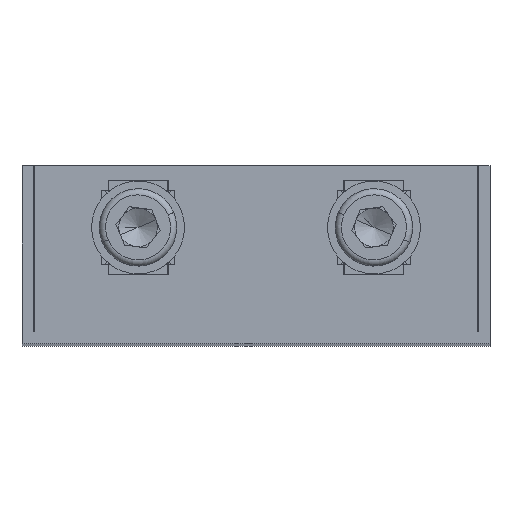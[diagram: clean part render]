
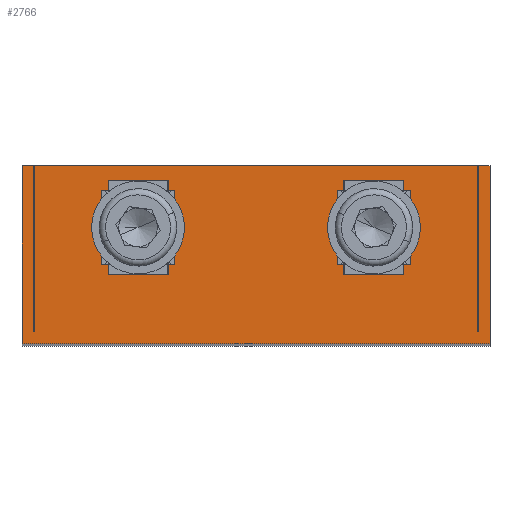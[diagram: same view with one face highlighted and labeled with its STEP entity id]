
A CAD part, top view. The second image highlights one B-rep face of the part: STEP entity #2766.
In plain terms, the highlighted planar face has unit normal (0, 0, 1).
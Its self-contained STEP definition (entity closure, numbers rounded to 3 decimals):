
#1854 = VERTEX_POINT('',#1855);
#1855 = CARTESIAN_POINT('',(-28.65,0.,107.));
#1870 = VERTEX_POINT('',#1871);
#1871 = CARTESIAN_POINT('',(28.65,0.,107.));
#1877 = EDGE_CURVE('',#1878,#1870,#1880,.T.);
#1878 = VERTEX_POINT('',#1879);
#1879 = CARTESIAN_POINT('',(28.75,0.,107.));
#1880 = LINE('',#1881,#1882);
#1881 = CARTESIAN_POINT('',(-28.75,0.,107.));
#1882 = VECTOR('',#1883,1.);
#1883 = DIRECTION('',(-1.,0.,0.));
#1934 = VERTEX_POINT('',#1935);
#1935 = CARTESIAN_POINT('',(-28.75,0.,107.));
#1941 = EDGE_CURVE('',#1934,#1854,#1942,.T.);
#1942 = LINE('',#1943,#1944);
#1943 = CARTESIAN_POINT('',(0.,0.,107.));
#1944 = VECTOR('',#1945,1.);
#1945 = DIRECTION('',(1.,0.,0.));
#1955 = EDGE_CURVE('',#1956,#1958,#1960,.T.);
#1956 = VERTEX_POINT('',#1957);
#1957 = CARTESIAN_POINT('',(-30.25,-1.5,107.));
#1958 = VERTEX_POINT('',#1959);
#1959 = CARTESIAN_POINT('',(30.25,-1.5,107.));
#1960 = LINE('',#1961,#1962);
#1961 = CARTESIAN_POINT('',(-28.75,-1.5,107.));
#1962 = VECTOR('',#1963,1.);
#1963 = DIRECTION('',(1.,0.,0.));
#1995 = EDGE_CURVE('',#1854,#1996,#1998,.T.);
#1996 = VERTEX_POINT('',#1997);
#1997 = CARTESIAN_POINT('',(-28.65,21.5,107.));
#1998 = LINE('',#1999,#2000);
#1999 = CARTESIAN_POINT('',(-28.65,0.6,107.));
#2000 = VECTOR('',#2001,1.);
#2001 = DIRECTION('',(0.,1.,0.));
#2026 = EDGE_CURVE('',#1870,#2027,#2029,.T.);
#2027 = VERTEX_POINT('',#2028);
#2028 = CARTESIAN_POINT('',(28.65,21.5,107.));
#2029 = LINE('',#2030,#2031);
#2030 = CARTESIAN_POINT('',(28.65,0.6,107.));
#2031 = VECTOR('',#2032,1.);
#2032 = DIRECTION('',(0.,1.,0.));
#2064 = EDGE_CURVE('',#2027,#1996,#2065,.T.);
#2065 = LINE('',#2066,#2067);
#2066 = CARTESIAN_POINT('',(0.,21.5,107.));
#2067 = VECTOR('',#2068,1.);
#2068 = DIRECTION('',(-1.,0.,0.));
#2170 = VERTEX_POINT('',#2171);
#2171 = CARTESIAN_POINT('',(28.75,21.5,107.));
#2177 = EDGE_CURVE('',#2170,#2178,#2180,.T.);
#2178 = VERTEX_POINT('',#2179);
#2179 = CARTESIAN_POINT('',(30.25,21.5,107.));
#2180 = LINE('',#2181,#2182);
#2181 = CARTESIAN_POINT('',(28.75,21.5,107.));
#2182 = VECTOR('',#2183,1.);
#2183 = DIRECTION('',(1.,0.,0.));
#2337 = EDGE_CURVE('',#1878,#2170,#2338,.T.);
#2338 = LINE('',#2339,#2340);
#2339 = CARTESIAN_POINT('',(28.75,0.,107.));
#2340 = VECTOR('',#2341,1.);
#2341 = DIRECTION('',(0.,1.,0.));
#2483 = EDGE_CURVE('',#1958,#2178,#2484,.T.);
#2484 = LINE('',#2485,#2486);
#2485 = CARTESIAN_POINT('',(30.25,0.,107.));
#2486 = VECTOR('',#2487,1.);
#2487 = DIRECTION('',(0.,1.,0.));
#2766 = ADVANCED_FACE('',(#2767,#2800,#2834),#2868,.F.);
#2767 = FACE_BOUND('',#2768,.T.);
#2768 = EDGE_LOOP('',(#2769,#2777,#2778,#2779,#2780,#2781,#2782,#2783,
    #2784,#2785,#2786,#2794));
#2769 = ORIENTED_EDGE('',*,*,#2770,.T.);
#2770 = EDGE_CURVE('',#2771,#1956,#2773,.T.);
#2771 = VERTEX_POINT('',#2772);
#2772 = CARTESIAN_POINT('',(-30.25,21.5,107.));
#2773 = LINE('',#2774,#2775);
#2774 = CARTESIAN_POINT('',(-30.25,21.5,107.));
#2775 = VECTOR('',#2776,1.);
#2776 = DIRECTION('',(-0.,-1.,-0.));
#2777 = ORIENTED_EDGE('',*,*,#1955,.T.);
#2778 = ORIENTED_EDGE('',*,*,#2483,.T.);
#2779 = ORIENTED_EDGE('',*,*,#2177,.F.);
#2780 = ORIENTED_EDGE('',*,*,#2337,.F.);
#2781 = ORIENTED_EDGE('',*,*,#1877,.T.);
#2782 = ORIENTED_EDGE('',*,*,#2026,.T.);
#2783 = ORIENTED_EDGE('',*,*,#2064,.T.);
#2784 = ORIENTED_EDGE('',*,*,#1995,.F.);
#2785 = ORIENTED_EDGE('',*,*,#1941,.F.);
#2786 = ORIENTED_EDGE('',*,*,#2787,.F.);
#2787 = EDGE_CURVE('',#2788,#1934,#2790,.T.);
#2788 = VERTEX_POINT('',#2789);
#2789 = CARTESIAN_POINT('',(-28.75,21.5,107.));
#2790 = LINE('',#2791,#2792);
#2791 = CARTESIAN_POINT('',(-28.75,21.5,107.));
#2792 = VECTOR('',#2793,1.);
#2793 = DIRECTION('',(0.,-1.,0.));
#2794 = ORIENTED_EDGE('',*,*,#2795,.F.);
#2795 = EDGE_CURVE('',#2771,#2788,#2796,.T.);
#2796 = LINE('',#2797,#2798);
#2797 = CARTESIAN_POINT('',(-30.25,21.5,107.));
#2798 = VECTOR('',#2799,1.);
#2799 = DIRECTION('',(1.,0.,0.));
#2800 = FACE_BOUND('',#2801,.T.);
#2801 = EDGE_LOOP('',(#2802,#2812,#2820,#2828));
#2802 = ORIENTED_EDGE('',*,*,#2803,.F.);
#2803 = EDGE_CURVE('',#2804,#2806,#2808,.T.);
#2804 = VERTEX_POINT('',#2805);
#2805 = CARTESIAN_POINT('',(-20.,18.25,107.));
#2806 = VERTEX_POINT('',#2807);
#2807 = CARTESIAN_POINT('',(-20.,8.75,107.));
#2808 = LINE('',#2809,#2810);
#2809 = CARTESIAN_POINT('',(-20.,8.75,107.));
#2810 = VECTOR('',#2811,1.);
#2811 = DIRECTION('',(-0.,-1.,-0.));
#2812 = ORIENTED_EDGE('',*,*,#2813,.F.);
#2813 = EDGE_CURVE('',#2814,#2804,#2816,.T.);
#2814 = VERTEX_POINT('',#2815);
#2815 = CARTESIAN_POINT('',(-10.5,18.25,107.));
#2816 = LINE('',#2817,#2818);
#2817 = CARTESIAN_POINT('',(-11.,18.25,107.));
#2818 = VECTOR('',#2819,1.);
#2819 = DIRECTION('',(-1.,0.,0.));
#2820 = ORIENTED_EDGE('',*,*,#2821,.F.);
#2821 = EDGE_CURVE('',#2822,#2814,#2824,.T.);
#2822 = VERTEX_POINT('',#2823);
#2823 = CARTESIAN_POINT('',(-10.5,8.75,107.));
#2824 = LINE('',#2825,#2826);
#2825 = CARTESIAN_POINT('',(-10.5,18.25,107.));
#2826 = VECTOR('',#2827,1.);
#2827 = DIRECTION('',(-0.,1.,-0.));
#2828 = ORIENTED_EDGE('',*,*,#2829,.F.);
#2829 = EDGE_CURVE('',#2806,#2822,#2830,.T.);
#2830 = LINE('',#2831,#2832);
#2831 = CARTESIAN_POINT('',(-10.5,8.75,107.));
#2832 = VECTOR('',#2833,1.);
#2833 = DIRECTION('',(1.,-0.,-0.));
#2834 = FACE_BOUND('',#2835,.T.);
#2835 = EDGE_LOOP('',(#2836,#2846,#2854,#2862));
#2836 = ORIENTED_EDGE('',*,*,#2837,.F.);
#2837 = EDGE_CURVE('',#2838,#2840,#2842,.T.);
#2838 = VERTEX_POINT('',#2839);
#2839 = CARTESIAN_POINT('',(10.5,18.25,107.));
#2840 = VERTEX_POINT('',#2841);
#2841 = CARTESIAN_POINT('',(10.5,8.75,107.));
#2842 = LINE('',#2843,#2844);
#2843 = CARTESIAN_POINT('',(10.5,8.75,107.));
#2844 = VECTOR('',#2845,1.);
#2845 = DIRECTION('',(-0.,-1.,-0.));
#2846 = ORIENTED_EDGE('',*,*,#2847,.F.);
#2847 = EDGE_CURVE('',#2848,#2838,#2850,.T.);
#2848 = VERTEX_POINT('',#2849);
#2849 = CARTESIAN_POINT('',(20.,18.25,107.));
#2850 = LINE('',#2851,#2852);
#2851 = CARTESIAN_POINT('',(11.,18.25,107.));
#2852 = VECTOR('',#2853,1.);
#2853 = DIRECTION('',(-1.,-0.,-0.));
#2854 = ORIENTED_EDGE('',*,*,#2855,.F.);
#2855 = EDGE_CURVE('',#2856,#2848,#2858,.T.);
#2856 = VERTEX_POINT('',#2857);
#2857 = CARTESIAN_POINT('',(20.,8.75,107.));
#2858 = LINE('',#2859,#2860);
#2859 = CARTESIAN_POINT('',(20.,17.75,107.));
#2860 = VECTOR('',#2861,1.);
#2861 = DIRECTION('',(0.,1.,0.));
#2862 = ORIENTED_EDGE('',*,*,#2863,.F.);
#2863 = EDGE_CURVE('',#2840,#2856,#2864,.T.);
#2864 = LINE('',#2865,#2866);
#2865 = CARTESIAN_POINT('',(19.5,8.75,107.));
#2866 = VECTOR('',#2867,1.);
#2867 = DIRECTION('',(1.,0.,0.));
#2868 = PLANE('',#2869);
#2869 = AXIS2_PLACEMENT_3D('',#2870,#2871,#2872);
#2870 = CARTESIAN_POINT('',(28.15,0.6,107.));
#2871 = DIRECTION('',(0.,0.,-1.));
#2872 = DIRECTION('',(-1.,0.,0.));
